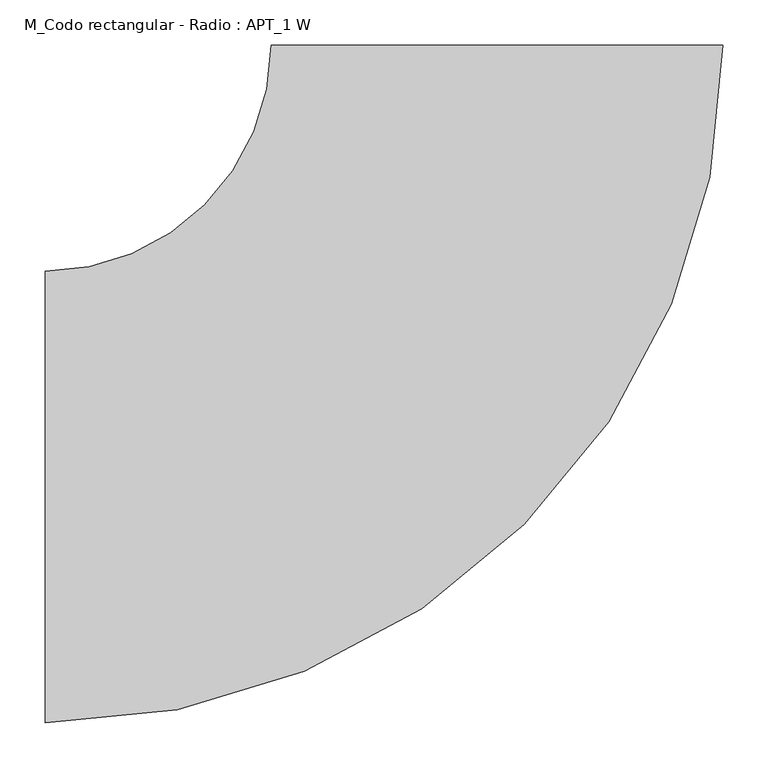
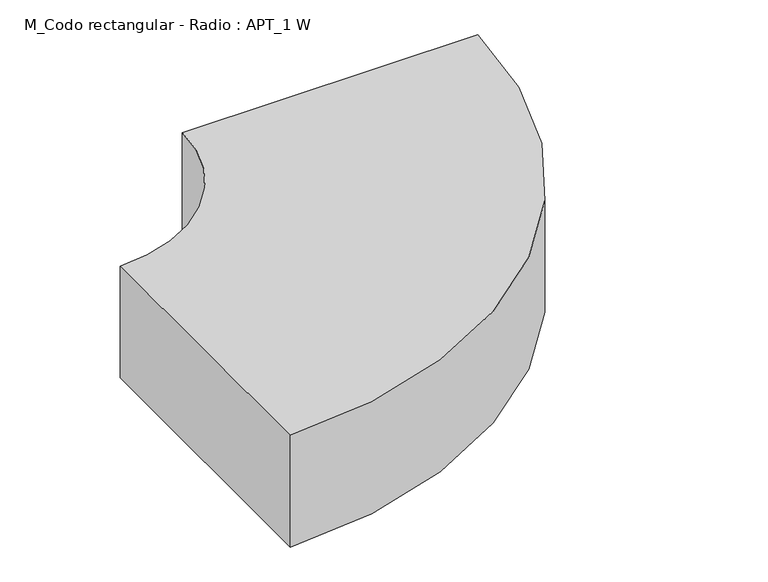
"""IFC4 building model written with IfcOpenShell, lengths in millimetres: duct fitting geometry, M_Codo rectangular - Radio : APT_1 W."""

import ifcopenshell
import ifcopenshell.guid

model = None  # the IFC model being written
_history = None  # IfcOwnerHistory: only IFC2X3 demands one
_inside = {}  # id of a spatial element -> (the spatial element, [elements in it])
_under = {}  # id of a project, library or spatial element -> (it, [spatial elements below it])
_declared = {}  # id of a project -> (the project, [libraries it declares])
_typed = {}  # id of a type object -> (the type object, [elements of that type])
_made_of = {}  # id of a material, layer set ... -> (it, [elements and type objects made of it])


def new_model(schema):
    """Start an empty IFC model of exactly this schema.

    Asked for "IFC4X3", IfcOpenShell would pick the latest addendum, in which some entities
    have other attributes; the version numbers below select the first issue.
    IFC2X3 requires an IfcOwnerHistory on every rooted entity: one is made here for all.
    """
    global model, _history
    if schema == "IFC4X3":
        model = ifcopenshell.file(schema_version=(4, 3, 0, 0))
    else:
        model = ifcopenshell.file(schema=schema)
    _inside.clear()
    _under.clear()
    _declared.clear()
    _typed.clear()
    _made_of.clear()
    _history = None
    if model.schema == "IFC2X3":
        org = make("IfcOrganization", Name="unknown")
        user = make(
            "IfcPersonAndOrganization",
            ThePerson=make("IfcPerson", FamilyName="unknown"),
            TheOrganization=org,
        )
        app = make(
            "IfcApplication",
            ApplicationDeveloper=org,
            Version="unknown",
            ApplicationFullName="unknown",
            ApplicationIdentifier="unknown",
        )
        _history = make(
            "IfcOwnerHistory",
            OwningUser=user,
            OwningApplication=app,
            ChangeAction="ADDED",
            CreationDate=0,
        )
    return model


def make(cls, **values):
    """One entity of the class cls with the attributes given. An attribute that is None is left unset."""
    return model.create_entity(
        cls, **{name: value for name, value in values.items() if value is not None}
    )


def rooted(cls, **values):
    """An entity with a GlobalId (a new one), such as an element, a storey or a relation."""
    return make(cls, GlobalId=ifcopenshell.guid.new(), OwnerHistory=_history, **values)


def si_unit(unit_type, name, prefix=None):
    """IfcSIUnit, for example si_unit("LENGTHUNIT", "METRE", prefix="MILLI")."""
    return make("IfcSIUnit", UnitType=unit_type, Prefix=prefix, Name=name)


def assignment(units):
    """IfcUnitAssignment: the units of a project."""
    return None if units is None else make("IfcUnitAssignment", Units=units)


def point(xyz):
    """IfcCartesianPoint."""
    return None if xyz is None else make("IfcCartesianPoint", Coordinates=xyz)


def direction(xyz):
    """IfcDirection."""
    return None if xyz is None else make("IfcDirection", DirectionRatios=xyz)


def frame(location, z_axis=None, x_axis=None):
    """IfcAxis2Placement3D, a coordinate frame: its origin and axes. An axis left out is left unset."""
    return make(
        "IfcAxis2Placement3D",
        Location=point(location),
        Axis=direction(z_axis),
        RefDirection=direction(x_axis),
    )


def frame_2d(location, x_axis=None):
    """IfcAxis2Placement2D, a coordinate frame in the plane: its origin and x axis."""
    return make(
        "IfcAxis2Placement2D", Location=point(location), RefDirection=direction(x_axis)
    )


def origin():
    """The frame at (0, 0, 0) with its axes left unset."""
    return frame((0.0, 0.0, 0.0))


def place(relative_to, where):
    """IfcLocalPlacement: puts the frame where relative to a parent placement (None: the world)."""
    return make(
        "IfcLocalPlacement", PlacementRelTo=relative_to, RelativePlacement=where
    )


def context(
    kind, dimensions, precision=None, world=None, true_north=None, identifier=None
):
    """IfcGeometricRepresentationContext, for example the 3D "Model" context."""
    return make(
        "IfcGeometricRepresentationContext",
        ContextIdentifier=identifier,
        ContextType=kind,
        CoordinateSpaceDimension=dimensions,
        Precision=precision,
        WorldCoordinateSystem=world,
        TrueNorth=true_north,
    )


def project(units=None, contexts=None):
    """IfcProject with its units and contexts."""
    return rooted(
        "IfcProject",
        Name="project",
        RepresentationContexts=contexts,
        UnitsInContext=assignment(units),
    )


def spatial(cls, under=None, at=None, **own):
    """A site, building, storey or space (cls), placed at a placement, below another one or the project."""
    s = rooted(cls, ObjectPlacement=at, **own)
    if under is not None:
        _under.setdefault(under.id(), (under, []))[1].append(s)
    return s


def polyline(points):
    """IfcPolyline through the points."""
    return make("IfcPolyline", Points=[point(p) for p in points])


def circle_curve(where, radius):
    """IfcCircle in the frame where."""
    return make("IfcCircle", Position=where, Radius=radius)


def trimmed(basis, trim1, trim2, sense, master):
    """IfcTrimmedCurve: the piece of a basis curve between two trims."""
    return make(
        "IfcTrimmedCurve",
        BasisCurve=basis,
        Trim1=trim1,
        Trim2=trim2,
        SenseAgreement=sense,
        MasterRepresentation=master,
    )


def segment(curve, same_sense, transition):
    """IfcCompositeCurveSegment."""
    return make(
        "IfcCompositeCurveSegment",
        Transition=transition,
        SameSense=same_sense,
        ParentCurve=curve,
    )


def composite_curve(segments, self_intersect=None):
    """IfcCompositeCurve: segments joined end to end."""
    return make("IfcCompositeCurve", Segments=segments, SelfIntersect=self_intersect)


def outline(outer, holes=None, kind="AREA"):
    """IfcArbitraryClosedProfileDef: a profile drawn as a closed curve; with holes, ...WithVoids."""
    if holes is None:
        return make("IfcArbitraryClosedProfileDef", ProfileType=kind, OuterCurve=outer)
    return make(
        "IfcArbitraryProfileDefWithVoids",
        ProfileType=kind,
        OuterCurve=outer,
        InnerCurves=holes,
    )


def extrude(swept, where, along, depth):
    """IfcExtrudedAreaSolid: the profile swept, set in the frame where, extruded along a direction by depth."""
    return make(
        "IfcExtrudedAreaSolid",
        SweptArea=swept,
        Position=where,
        ExtrudedDirection=direction(along),
        Depth=depth,
    )


def shape(context_of_items, identifier, shape_type, items):
    """IfcShapeRepresentation: the items that make up one representation, for example the "Body"."""
    return make(
        "IfcShapeRepresentation",
        ContextOfItems=context_of_items,
        RepresentationIdentifier=identifier,
        RepresentationType=shape_type,
        Items=items,
    )


def source(mapping_origin, context_of_items, identifier, shape_type, items):
    """IfcRepresentationMap: a shape defined once, which mapped items show again and again."""
    return make(
        "IfcRepresentationMap",
        MappingOrigin=mapping_origin,
        MappedRepresentation=shape(context_of_items, identifier, shape_type, items),
    )


def transform(
    local_origin,
    x_axis=None,
    y_axis=None,
    z_axis=None,
    scale=None,
    scale2=None,
    scale3=None,
    uniform=True,
):
    """IfcCartesianTransformationOperator3D, or its non-uniform kind. x_axis, y_axis, z_axis: its Axis1, 2, 3."""
    if uniform:
        return make(
            "IfcCartesianTransformationOperator3D",
            Axis1=direction(x_axis),
            Axis2=direction(y_axis),
            LocalOrigin=point(local_origin),
            Scale=scale,
            Axis3=direction(z_axis),
        )
    return make(
        "IfcCartesianTransformationOperator3DnonUniform",
        Axis1=direction(x_axis),
        Axis2=direction(y_axis),
        LocalOrigin=point(local_origin),
        Scale=scale,
        Axis3=direction(z_axis),
        Scale2=scale2,
        Scale3=scale3,
    )


def mapped(mapping_source, mapping_target):
    """IfcMappedItem: shows the shape of a source again, moved by a transform."""
    return make(
        "IfcMappedItem", MappingSource=mapping_source, MappingTarget=mapping_target
    )


def made_of(thing, what):
    """Note that an element or type object is made of a material, layer set ...; save() writes the relation."""
    if what is not None:
        _made_of.setdefault(what.id(), (what, []))[1].append(thing)
    return thing


def element(
    cls,
    number,
    at=None,
    inside=None,
    cuts=None,
    type_object=None,
    material=None,
    context=None,
    identifier="Body",
    shape_type=None,
    held_by="IfcProductDefinitionShape",
    body=None,
    shapes=None,
    **own,
):
    """One element of the class cls, such as IfcWall. Its Tag is "e" and its number.

    at: its placement. inside: the storey or other place that contains it. cuts: it is an
    opening in that element (IfcRelVoidsElement). A single representation is given by context,
    identifier, shape_type and body (its items); several are given by shapes. held_by: the class
    of the entity that holds the representations. save() writes the other relations.
    """
    e = rooted(cls, Tag="e%d" % number, ObjectPlacement=at, **own)
    if body is not None:
        shapes = [shape(context, identifier, shape_type, body)]
    if shapes is not None:
        e.Representation = make(held_by, Representations=shapes)
    if inside is not None:
        _inside.setdefault(inside.id(), (inside, []))[1].append(e)
    if cuts is not None:
        rooted(
            "IfcRelVoidsElement", RelatingBuildingElement=cuts, RelatedOpeningElement=e
        )
    if type_object is not None:
        _typed.setdefault(type_object.id(), (type_object, []))[1].append(e)
    return made_of(e, material)


def aggregate(whole, parts):
    """IfcRelAggregates: a whole, such as a stair, and the parts it consists of."""
    return rooted("IfcRelAggregates", RelatingObject=whole, RelatedObjects=parts)


def save(model, path):
    """Write the relations noted so far, then the file.

    IfcRelAggregates (storeys below a building ...), IfcRelContainedInSpatialStructure (elements
    in a storey), IfcRelDefinesByType, IfcRelAssociatesMaterial and IfcRelDeclares: one each for
    every whole, place, type object, material and project.
    """
    for whole, parts in _under.values():
        aggregate(whole, parts)
    for where, things in _inside.values():
        rooted(
            "IfcRelContainedInSpatialStructure",
            RelatedElements=things,
            RelatingStructure=where,
        )
    for kind, things in _typed.values():
        rooted("IfcRelDefinesByType", RelatedObjects=things, RelatingType=kind)
    for what, things in _made_of.values():
        rooted("IfcRelAssociatesMaterial", RelatedObjects=things, RelatingMaterial=what)
    for by, libraries in _declared.values():
        rooted("IfcRelDeclares", RelatingContext=by, RelatedDefinitions=libraries)
    model.write(path)


def m_codo_rectangular_radio_apt_1_w_8ec2a39b(model_context):
    return source(origin(), model_context, "Body", "SweptSolid", [
        extrude(outline(composite_curve([segment(trimmed(circle_curve(frame_2d((-500.0, 500.0)), 750.0), [point((250.0, 500.0))], [point((-500.0, -250.0))], False, "CARTESIAN"), True, "CONTINUOUS"), segment(polyline([(-500.0, -250.0), (-500.0, 250.0)]), True, "CONTINUOUS"), segment(trimmed(circle_curve(frame_2d((-500.0, 500.0)), 250.0), [point((-500.0, 250.0))], [point((-250.0, 500.0))], True, "CARTESIAN"), True, "CONTINUOUS"), segment(polyline([(-250.0, 500.0), (250.0, 500.0)]), True, "CONTINUOUS")], self_intersect=False)), frame((0.0, 0.0, -100.0), z_axis=(0.0, 0.0, 1.0), x_axis=(1.0, 0.0, 0.0)), (0.0, 0.0, 1.0), 200.0),
    ])


if __name__ == "__main__":
    model = new_model("IFC4")
    model_context = context("Model", 3, world=origin())
    ifc_project = project(units=[si_unit("LENGTHUNIT", "METRE", prefix="MILLI")], contexts=[model_context])
    site = spatial("IfcSite", under=ifc_project)
    building = spatial("IfcBuilding", under=site)
    placement = place(None, origin())
    m_codo_rectangular_radio_apt_1_w_shape = m_codo_rectangular_radio_apt_1_w_8ec2a39b(model_context)
    element("IfcDuctFitting", 1, ObjectType="M_Codo rectangular - Radio : APT_1 W", at=placement, inside=building, context=model_context, shape_type="MappedRepresentation", body=[
        mapped(m_codo_rectangular_radio_apt_1_w_shape, transform((0.0, 0.0, 0.0), x_axis=(1.0, 0.0, 0.0), y_axis=(0.0, 1.0, 0.0), z_axis=(0.0, 0.0, 1.0))),
    ])
    save(model, "model.ifc")
